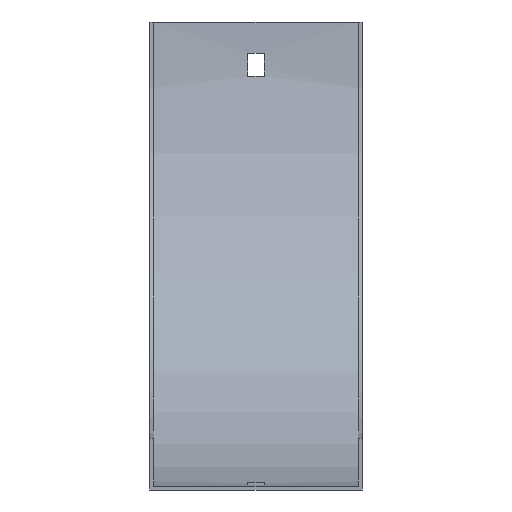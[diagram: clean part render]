
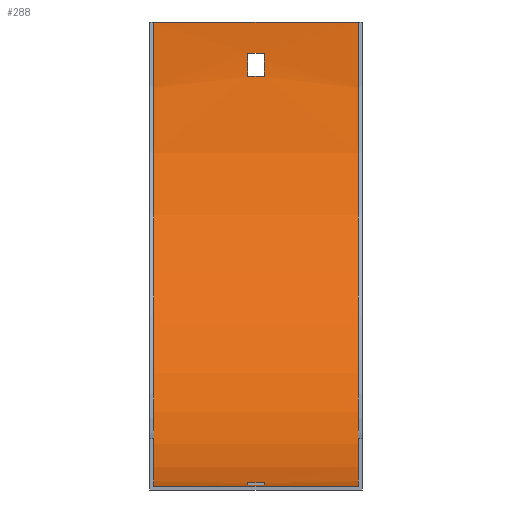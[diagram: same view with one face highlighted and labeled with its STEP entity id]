
A CAD part, front view. The second image highlights one B-rep face of the part: STEP entity #288.
In plain terms, the highlighted cylindrical face has radius 179 mm (diameter 358 mm), a partial arc.
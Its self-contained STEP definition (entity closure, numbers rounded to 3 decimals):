
#16 = CARTESIAN_POINT ( 'NONE',  ( 41., -168.5, -178.597 ) ) ;
#17 = CARTESIAN_POINT ( 'NONE',  ( -3.25, -2.736, -21. ) ) ;
#18 = EDGE_LOOP ( 'NONE', ( #224, #279, #404, #216 ) ) ;
#19 = VERTEX_POINT ( 'NONE', #85 ) ;
#20 = AXIS2_PLACEMENT_3D ( 'NONE', #289, #53, #186 ) ;
#25 = ORIENTED_EDGE ( 'NONE', *, *, #509, .F. ) ;
#33 = VERTEX_POINT ( 'NONE', #276 ) ;
#37 = CARTESIAN_POINT ( 'NONE',  ( 39.5, -180.5, 0. ) ) ;
#53 = DIRECTION ( 'NONE',  ( -1., 0., 0. ) ) ;
#54 = EDGE_LOOP ( 'NONE', ( #251, #171, #76, #597 ) ) ;
#66 = CARTESIAN_POINT ( 'NONE',  ( -39.5, -1.5, 0. ) ) ;
#70 = VECTOR ( 'NONE', #254, 1000. ) ;
#73 = ORIENTED_EDGE ( 'NONE', *, *, #151, .F. ) ;
#76 = ORIENTED_EDGE ( 'NONE', *, *, #77, .T. ) ;
#77 = EDGE_CURVE ( 'NONE', #441, #33, #388, .T. ) ;
#85 = CARTESIAN_POINT ( 'NONE',  ( -39.5, -180.5, -179. ) ) ;
#93 = VERTEX_POINT ( 'NONE', #223 ) ;
#97 = CARTESIAN_POINT ( 'NONE',  ( -3.25, -1.903, -12. ) ) ;
#102 = VECTOR ( 'NONE', #584, 1000. ) ;
#103 = VECTOR ( 'NONE', #347, 1000. ) ;
#104 = CARTESIAN_POINT ( 'NONE',  ( -3.25, -159.5, -177.764 ) ) ;
#111 = LINE ( 'NONE', #291, #500 ) ;
#117 = DIRECTION ( 'NONE',  ( -1., 0., 0. ) ) ;
#139 = CARTESIAN_POINT ( 'NONE',  ( 3.25, -1.903, -12. ) ) ;
#140 = AXIS2_PLACEMENT_3D ( 'NONE', #195, #440, #451 ) ;
#141 = VERTEX_POINT ( 'NONE', #285 ) ;
#147 = AXIS2_PLACEMENT_3D ( 'NONE', #567, #376, #560 ) ;
#148 = DIRECTION ( 'NONE',  ( 1., 0., 0. ) ) ;
#149 = CIRCLE ( 'NONE', #333, 179. ) ;
#151 = EDGE_CURVE ( 'NONE', #168, #501, #381, .T. ) ;
#155 = LINE ( 'NONE', #393, #102 ) ;
#161 = DIRECTION ( 'NONE',  ( 0., 0., -1. ) ) ;
#168 = VERTEX_POINT ( 'NONE', #97 ) ;
#171 = ORIENTED_EDGE ( 'NONE', *, *, #473, .F. ) ;
#184 = EDGE_CURVE ( 'NONE', #263, #168, #192, .T. ) ;
#186 = DIRECTION ( 'NONE',  ( 0., 0., 1. ) ) ;
#192 = LINE ( 'NONE', #420, #353 ) ;
#195 = CARTESIAN_POINT ( 'NONE',  ( 3.25, -180.5, 0. ) ) ;
#196 = CARTESIAN_POINT ( 'NONE',  ( -3.25, -180.5, 0. ) ) ;
#199 = CARTESIAN_POINT ( 'NONE',  ( 3.25, -180.5, 0. ) ) ;
#206 = EDGE_CURVE ( 'NONE', #141, #492, #400, .T. ) ;
#216 = ORIENTED_EDGE ( 'NONE', *, *, #206, .T. ) ;
#221 = AXIS2_PLACEMENT_3D ( 'NONE', #37, #599, #562 ) ;
#223 = CARTESIAN_POINT ( 'NONE',  ( 3.25, -2.736, -21. ) ) ;
#224 = ORIENTED_EDGE ( 'NONE', *, *, #528, .T. ) ;
#232 = AXIS2_PLACEMENT_3D ( 'NONE', #199, #491, #161 ) ;
#245 = CARTESIAN_POINT ( 'NONE',  ( 39.5, -180.5, -179. ) ) ;
#251 = ORIENTED_EDGE ( 'NONE', *, *, #442, .F. ) ;
#254 = DIRECTION ( 'NONE',  ( 1., 0., 0. ) ) ;
#263 = VERTEX_POINT ( 'NONE', #139 ) ;
#276 = CARTESIAN_POINT ( 'NONE',  ( 39.5, -1.5, 0. ) ) ;
#279 = ORIENTED_EDGE ( 'NONE', *, *, #472, .T. ) ;
#285 = CARTESIAN_POINT ( 'NONE',  ( 3.25, -159.5, -177.764 ) ) ;
#288 = ADVANCED_FACE ( 'NONE', ( #518, #368, #419 ), #514, .F. ) ;
#289 = CARTESIAN_POINT ( 'NONE',  ( -3.25, -180.5, 0. ) ) ;
#291 = CARTESIAN_POINT ( 'NONE',  ( 39.5, -180.5, -179. ) ) ;
#297 = LINE ( 'NONE', #534, #103 ) ;
#304 = LINE ( 'NONE', #387, #70 ) ;
#327 = CARTESIAN_POINT ( 'NONE',  ( 3.25, -168.5, -178.597 ) ) ;
#333 = AXIS2_PLACEMENT_3D ( 'NONE', #196, #523, #529 ) ;
#334 = DIRECTION ( 'NONE',  ( -1., 0., 0. ) ) ;
#347 = DIRECTION ( 'NONE',  ( -1., 0., 0. ) ) ;
#353 = VECTOR ( 'NONE', #334, 1000. ) ;
#367 = EDGE_LOOP ( 'NONE', ( #73, #594, #434, #25 ) ) ;
#368 = FACE_OUTER_BOUND ( 'NONE', #54, .T. ) ;
#376 = DIRECTION ( 'NONE',  ( -1., 0., 0. ) ) ;
#380 = CARTESIAN_POINT ( 'NONE',  ( -3.25, -168.5, -178.597 ) ) ;
#381 = CIRCLE ( 'NONE', #20, 179. ) ;
#387 = CARTESIAN_POINT ( 'NONE',  ( 41., -159.5, -177.764 ) ) ;
#388 = CIRCLE ( 'NONE', #221, 179. ) ;
#393 = CARTESIAN_POINT ( 'NONE',  ( 41., -2.736, -21. ) ) ;
#400 = CIRCLE ( 'NONE', #140, 179. ) ;
#403 = VERTEX_POINT ( 'NONE', #380 ) ;
#404 = ORIENTED_EDGE ( 'NONE', *, *, #559, .T. ) ;
#419 = FACE_BOUND ( 'NONE', #18, .T. ) ;
#420 = CARTESIAN_POINT ( 'NONE',  ( 41., -1.903, -12. ) ) ;
#430 = DIRECTION ( 'NONE',  ( 0., 0., 1. ) ) ;
#434 = ORIENTED_EDGE ( 'NONE', *, *, #544, .F. ) ;
#440 = DIRECTION ( 'NONE',  ( -1., 0., 0. ) ) ;
#441 = VERTEX_POINT ( 'NONE', #245 ) ;
#442 = EDGE_CURVE ( 'NONE', #19, #546, #450, .T. ) ;
#450 = CIRCLE ( 'NONE', #460, 179. ) ;
#451 = DIRECTION ( 'NONE',  ( 0., 0., 1. ) ) ;
#460 = AXIS2_PLACEMENT_3D ( 'NONE', #573, #148, #430 ) ;
#468 = VERTEX_POINT ( 'NONE', #104 ) ;
#472 = EDGE_CURVE ( 'NONE', #403, #468, #149, .T. ) ;
#473 = EDGE_CURVE ( 'NONE', #441, #19, #111, .T. ) ;
#491 = DIRECTION ( 'NONE',  ( 1., 0., 0. ) ) ;
#492 = VERTEX_POINT ( 'NONE', #327 ) ;
#500 = VECTOR ( 'NONE', #581, 1000. ) ;
#501 = VERTEX_POINT ( 'NONE', #17 ) ;
#509 = EDGE_CURVE ( 'NONE', #501, #93, #155, .T. ) ;
#514 = CYLINDRICAL_SURFACE ( 'NONE', #147, 179. ) ;
#518 = FACE_BOUND ( 'NONE', #367, .T. ) ;
#523 = DIRECTION ( 'NONE',  ( 1., 0., 0. ) ) ;
#528 = EDGE_CURVE ( 'NONE', #492, #403, #531, .T. ) ;
#529 = DIRECTION ( 'NONE',  ( 0., 0., -1. ) ) ;
#531 = LINE ( 'NONE', #16, #592 ) ;
#534 = CARTESIAN_POINT ( 'NONE',  ( 39.5, -1.5, 0. ) ) ;
#540 = CIRCLE ( 'NONE', #232, 179. ) ;
#544 = EDGE_CURVE ( 'NONE', #93, #263, #540, .T. ) ;
#546 = VERTEX_POINT ( 'NONE', #66 ) ;
#559 = EDGE_CURVE ( 'NONE', #468, #141, #304, .T. ) ;
#560 = DIRECTION ( 'NONE',  ( 0., 0., 1. ) ) ;
#562 = DIRECTION ( 'NONE',  ( 0., 0., 1. ) ) ;
#567 = CARTESIAN_POINT ( 'NONE',  ( 41., -180.5, 0. ) ) ;
#573 = CARTESIAN_POINT ( 'NONE',  ( -39.5, -180.5, 0. ) ) ;
#575 = EDGE_CURVE ( 'NONE', #33, #546, #297, .T. ) ;
#581 = DIRECTION ( 'NONE',  ( -1., 0., 0. ) ) ;
#584 = DIRECTION ( 'NONE',  ( 1., 0., 0. ) ) ;
#592 = VECTOR ( 'NONE', #117, 1000. ) ;
#594 = ORIENTED_EDGE ( 'NONE', *, *, #184, .F. ) ;
#597 = ORIENTED_EDGE ( 'NONE', *, *, #575, .T. ) ;
#599 = DIRECTION ( 'NONE',  ( 1., 0., 0. ) ) ;
